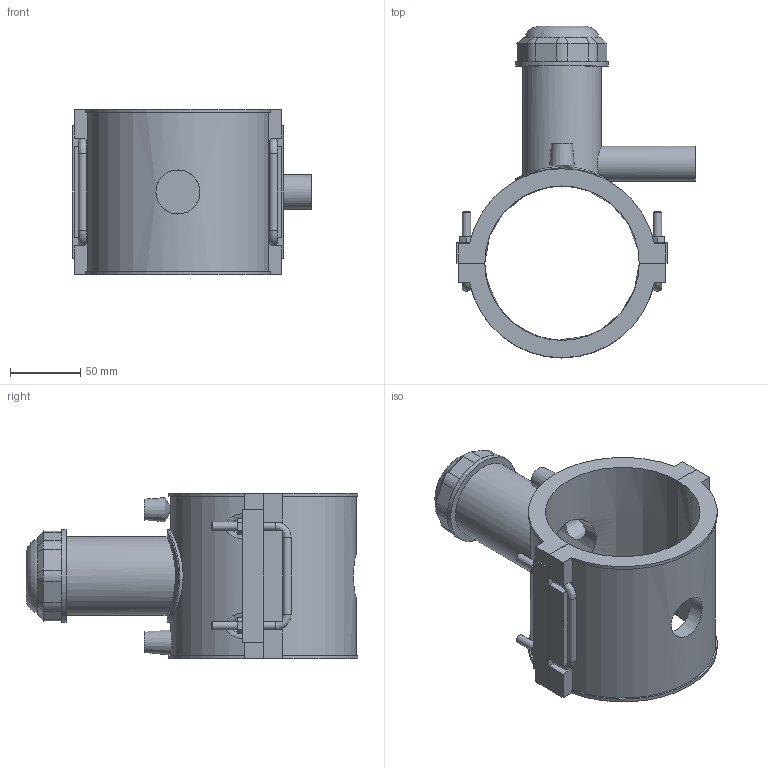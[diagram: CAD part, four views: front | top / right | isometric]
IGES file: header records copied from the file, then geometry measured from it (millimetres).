
Global section: file name: 496304110025.ipt; native system: Autodesk Inventor 2015; preprocessor: unknown; author: KIM; date: 20190124.130819; units: millimetre
Bounding box: 170 x 236.32 x 118 mm (x, y, z)
Volume: 688806.5 mm3; surface area: 164887.4 mm2
Topology: 2 solids, 2 shells, 188 faces, 491 edges, 320 vertices
Faces by surface type: plane 117, cylinder 32, revolution 20, cone 14, bspline 5
Full cylindrical faces by diameter (mm): 4 x2, 6 x10, 25 x1, 56.1 x1, 66 x2
